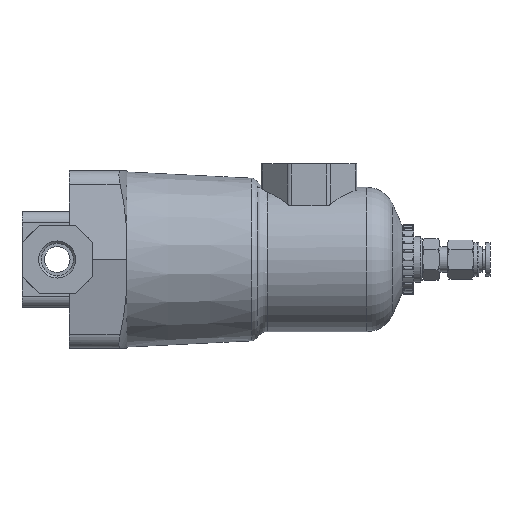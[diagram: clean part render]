
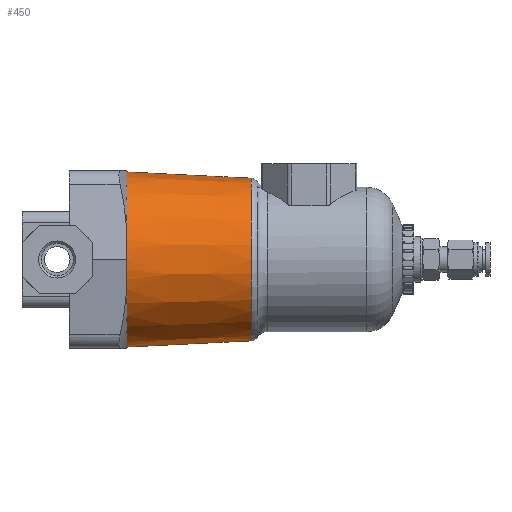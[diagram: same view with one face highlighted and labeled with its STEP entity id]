
A CAD part, left-side view. The second image highlights one B-rep face of the part: STEP entity #450.
In plain terms, the highlighted conical face has half-angle 2.862 degrees and reference radius 31.1 mm.
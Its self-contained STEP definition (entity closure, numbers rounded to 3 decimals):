
#187 = AXIS2_PLACEMENT_3D ( 'NONE', #1744, #7236, #10930 ) ;
#375 = FACE_OUTER_BOUND ( 'NONE', #5547, .T. ) ;
#450 = ADVANCED_FACE ( 'NONE', ( #375 ), #9744, .T. ) ;
#489 = ORIENTED_EDGE ( 'NONE', *, *, #6467, .F. ) ;
#566 = LINE ( 'NONE', #3507, #9291 ) ;
#588 = VERTEX_POINT ( 'NONE', #6382 ) ;
#976 = CARTESIAN_POINT ( 'NONE',  ( 0., -24.7, 0. ) ) ;
#1230 = EDGE_CURVE ( 'NONE', #7773, #2127, #11444, .T. ) ;
#1251 = VERTEX_POINT ( 'NONE', #8167 ) ;
#1263 = EDGE_CURVE ( 'NONE', #10252, #3761, #566, .T. ) ;
#1323 = ORIENTED_EDGE ( 'NONE', *, *, #1230, .F. ) ;
#1556 = CARTESIAN_POINT ( 'NONE',  ( 0., -24.7, 0. ) ) ;
#1689 = CIRCLE ( 'NONE', #2271, 31.1 ) ;
#1744 = CARTESIAN_POINT ( 'NONE',  ( 0., -24.7, 0. ) ) ;
#1808 = CARTESIAN_POINT ( 'NONE',  ( 0., -24.7, -31.1 ) ) ;
#1850 = AXIS2_PLACEMENT_3D ( 'NONE', #976, #4649, #8395 ) ;
#2127 = VERTEX_POINT ( 'NONE', #1808 ) ;
#2271 = AXIS2_PLACEMENT_3D ( 'NONE', #3043, #7877, #11565 ) ;
#2502 = EDGE_CURVE ( 'NONE', #5460, #1251, #1689, .T. ) ;
#2807 = CIRCLE ( 'NONE', #11122, 31.1 ) ;
#2947 = CARTESIAN_POINT ( 'NONE',  ( 0., -68.85, -28.893 ) ) ;
#3043 = CARTESIAN_POINT ( 'NONE',  ( 0., -24.7, 0. ) ) ;
#3142 = EDGE_CURVE ( 'NONE', #588, #2127, #6542, .T. ) ;
#3284 = AXIS2_PLACEMENT_3D ( 'NONE', #7918, #8767, #11781 ) ;
#3507 = CARTESIAN_POINT ( 'NONE',  ( 0., -24.7, 31.1 ) ) ;
#3761 = VERTEX_POINT ( 'NONE', #5659 ) ;
#3959 = AXIS2_PLACEMENT_3D ( 'NONE', #1556, #4050, #8589 ) ;
#4050 = DIRECTION ( 'NONE',  ( 0., 1., 0. ) ) ;
#4649 = DIRECTION ( 'NONE',  ( 0., -1., 0. ) ) ;
#4748 = EDGE_CURVE ( 'NONE', #3761, #5460, #7052, .T. ) ;
#4797 = CARTESIAN_POINT ( 'NONE',  ( 0., -24.7, 0. ) ) ;
#4891 = CARTESIAN_POINT ( 'NONE',  ( -29.216, -24.7, 10.661 ) ) ;
#5413 = CIRCLE ( 'NONE', #3284, 28.893 ) ;
#5460 = VERTEX_POINT ( 'NONE', #4891 ) ;
#5547 = EDGE_LOOP ( 'NONE', ( #1323, #489, #5969, #8943, #11005, #8418, #11193 ) ) ;
#5616 = VECTOR ( 'NONE', #9624, 1000. ) ;
#5643 = DIRECTION ( 'NONE',  ( 0., 0., -1. ) ) ;
#5659 = CARTESIAN_POINT ( 'NONE',  ( 0., -24.7, 31.1 ) ) ;
#5969 = ORIENTED_EDGE ( 'NONE', *, *, #1263, .T. ) ;
#6382 = CARTESIAN_POINT ( 'NONE',  ( -29.216, -24.7, -10.661 ) ) ;
#6467 = EDGE_CURVE ( 'NONE', #10252, #7773, #5413, .T. ) ;
#6542 = CIRCLE ( 'NONE', #187, 31.1 ) ;
#7052 = CIRCLE ( 'NONE', #1850, 31.1 ) ;
#7236 = DIRECTION ( 'NONE',  ( 0., -1., 0. ) ) ;
#7437 = EDGE_CURVE ( 'NONE', #1251, #588, #2807, .T. ) ;
#7773 = VERTEX_POINT ( 'NONE', #2947 ) ;
#7877 = DIRECTION ( 'NONE',  ( 0., -1., 0. ) ) ;
#7918 = CARTESIAN_POINT ( 'NONE',  ( 0., -68.85, 0. ) ) ;
#8167 = CARTESIAN_POINT ( 'NONE',  ( -31.1, -24.7, 0. ) ) ;
#8395 = DIRECTION ( 'NONE',  ( 0., 0., 1. ) ) ;
#8418 = ORIENTED_EDGE ( 'NONE', *, *, #7437, .T. ) ;
#8589 = DIRECTION ( 'NONE',  ( 0., 0., 1. ) ) ;
#8611 = DIRECTION ( 'NONE',  ( 0., -1., 0. ) ) ;
#8767 = DIRECTION ( 'NONE',  ( 0., -1., 0. ) ) ;
#8920 = CARTESIAN_POINT ( 'NONE',  ( 0., -68.85, 28.893 ) ) ;
#8943 = ORIENTED_EDGE ( 'NONE', *, *, #4748, .T. ) ;
#9291 = VECTOR ( 'NONE', #10836, 1000. ) ;
#9624 = DIRECTION ( 'NONE',  ( 0., 0.999, -0.05 ) ) ;
#9742 = CARTESIAN_POINT ( 'NONE',  ( 0., -24.7, -31.1 ) ) ;
#9744 = CONICAL_SURFACE ( 'NONE', #3959, 31.1, 0.05 ) ;
#10252 = VERTEX_POINT ( 'NONE', #8920 ) ;
#10836 = DIRECTION ( 'NONE',  ( 0., 0.999, 0.05 ) ) ;
#10930 = DIRECTION ( 'NONE',  ( 0., 0., 1. ) ) ;
#11005 = ORIENTED_EDGE ( 'NONE', *, *, #2502, .T. ) ;
#11122 = AXIS2_PLACEMENT_3D ( 'NONE', #4797, #8611, #5643 ) ;
#11193 = ORIENTED_EDGE ( 'NONE', *, *, #3142, .T. ) ;
#11444 = LINE ( 'NONE', #9742, #5616 ) ;
#11565 = DIRECTION ( 'NONE',  ( 0., 0., -1. ) ) ;
#11781 = DIRECTION ( 'NONE',  ( 0., 0., -1. ) ) ;
